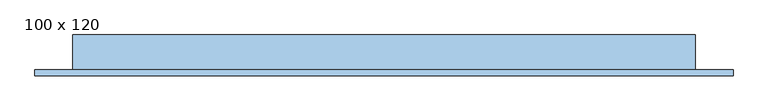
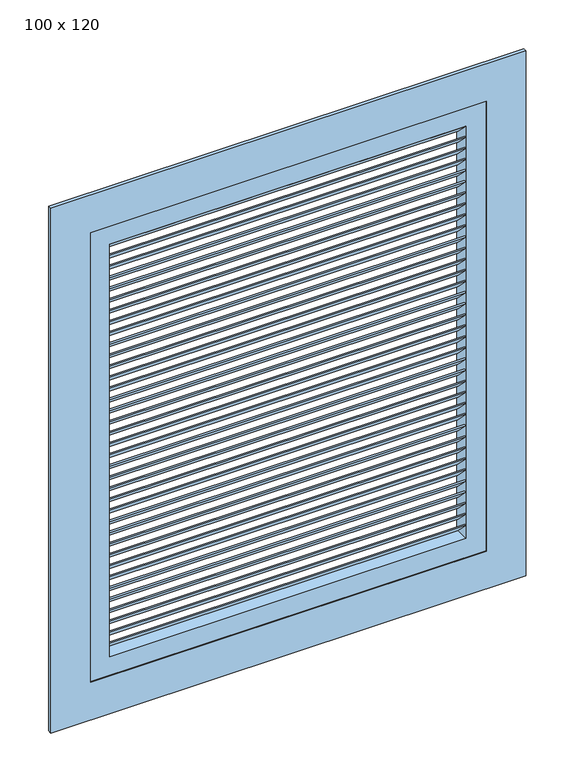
"""IFC4 building model written with IfcOpenShell, lengths in millimetres: window geometry, VENEZIANA DE ABRIR PARA FORA - 1 FOLHA : 100 x 120."""

from ifc_helpers import new_model, si_unit, frame, origin, place, context, project, spatial, polyline, outline, extrude, source, transform, mapped, element, save


def window_100_x_120_e8788bc4(model_context):
    return source(origin(), model_context, "Body", "SweptSolid", [
        extrude(outline(polyline([(-48.3758395, 2085.4166667), (-83.3758395, 2120.4166667), (-78.3758395, 2120.4166667), (-43.3758395, 2085.4166667), (-48.3758395, 2085.4166667)])), frame((-320.5964491, 0.0, 0.0), z_axis=(1.0, 0.0, 0.0), x_axis=(0.0, 1.0, 0.0)), (0.0, 0.0, 1.0), 900.0),
        extrude(outline(polyline([(-48.3758395, 2055.8333333), (-83.3758395, 2090.8333333), (-78.3758395, 2090.8333333), (-43.3758395, 2055.8333333), (-48.3758395, 2055.8333333)])), frame((-320.5964491, 0.0, 0.0), z_axis=(1.0, 0.0, 0.0), x_axis=(0.0, 1.0, 0.0)), (0.0, 0.0, 1.0), 900.0),
        extrude(outline(polyline([(-48.3758395, 2026.25), (-83.3758395, 2061.25), (-78.3758395, 2061.25), (-43.3758395, 2026.25), (-48.3758395, 2026.25)])), frame((-320.5964491, 0.0, 0.0), z_axis=(1.0, 0.0, 0.0), x_axis=(0.0, 1.0, 0.0)), (0.0, 0.0, 1.0), 900.0),
        extrude(outline(polyline([(-48.3758395, 1996.6666667), (-83.3758395, 2031.6666667), (-78.3758395, 2031.6666667), (-43.3758395, 1996.6666667), (-48.3758395, 1996.6666667)])), frame((-320.5964491, 0.0, 0.0), z_axis=(1.0, 0.0, 0.0), x_axis=(0.0, 1.0, 0.0)), (0.0, 0.0, 1.0), 900.0),
        extrude(outline(polyline([(-48.3758395, 1967.0833333), (-83.3758395, 2002.0833333), (-78.3758395, 2002.0833333), (-43.3758395, 1967.0833333), (-48.3758395, 1967.0833333)])), frame((-320.5964491, 0.0, 0.0), z_axis=(1.0, 0.0, 0.0), x_axis=(0.0, 1.0, 0.0)), (0.0, 0.0, 1.0), 900.0),
        extrude(outline(polyline([(-48.3758395, 1937.5), (-83.3758395, 1972.5), (-78.3758395, 1972.5), (-43.3758395, 1937.5), (-48.3758395, 1937.5)])), frame((-320.5964491, 0.0, 0.0), z_axis=(1.0, 0.0, 0.0), x_axis=(0.0, 1.0, 0.0)), (0.0, 0.0, 1.0), 900.0),
        extrude(outline(polyline([(-48.3758395, 1907.9166667), (-83.3758395, 1942.9166667), (-78.3758395, 1942.9166667), (-43.3758395, 1907.9166667), (-48.3758395, 1907.9166667)])), frame((-320.5964491, 0.0, 0.0), z_axis=(1.0, 0.0, 0.0), x_axis=(0.0, 1.0, 0.0)), (0.0, 0.0, 1.0), 900.0),
        extrude(outline(polyline([(-48.3758395, 1878.3333333), (-83.3758395, 1913.3333333), (-78.3758395, 1913.3333333), (-43.3758395, 1878.3333333), (-48.3758395, 1878.3333333)])), frame((-320.5964491, 0.0, 0.0), z_axis=(1.0, 0.0, 0.0), x_axis=(0.0, 1.0, 0.0)), (0.0, 0.0, 1.0), 900.0),
        extrude(outline(polyline([(-48.3758395, 1848.75), (-83.3758395, 1883.75), (-78.3758395, 1883.75), (-43.3758395, 1848.75), (-48.3758395, 1848.75)])), frame((-320.5964491, 0.0, 0.0), z_axis=(1.0, 0.0, 0.0), x_axis=(0.0, 1.0, 0.0)), (0.0, 0.0, 1.0), 900.0),
        extrude(outline(polyline([(-48.3758395, 1819.1666667), (-83.3758395, 1854.1666667), (-78.3758395, 1854.1666667), (-43.3758395, 1819.1666667), (-48.3758395, 1819.1666667)])), frame((-320.5964491, 0.0, 0.0), z_axis=(1.0, 0.0, 0.0), x_axis=(0.0, 1.0, 0.0)), (0.0, 0.0, 1.0), 900.0),
        extrude(outline(polyline([(-48.3758395, 1789.5833333), (-83.3758395, 1824.5833333), (-78.3758395, 1824.5833333), (-43.3758395, 1789.5833333), (-48.3758395, 1789.5833333)])), frame((-320.5964491, 0.0, 0.0), z_axis=(1.0, 0.0, 0.0), x_axis=(0.0, 1.0, 0.0)), (0.0, 0.0, 1.0), 900.0),
        extrude(outline(polyline([(-48.3758395, 1760.0), (-83.3758395, 1795.0), (-78.3758395, 1795.0), (-43.3758395, 1760.0), (-48.3758395, 1760.0)])), frame((-320.5964491, 0.0, 0.0), z_axis=(1.0, 0.0, 0.0), x_axis=(0.0, 1.0, 0.0)), (0.0, 0.0, 1.0), 900.0),
        extrude(outline(polyline([(-48.3758395, 1730.4166667), (-83.3758395, 1765.4166667), (-78.3758395, 1765.4166667), (-43.3758395, 1730.4166667), (-48.3758395, 1730.4166667)])), frame((-320.5964491, 0.0, 0.0), z_axis=(1.0, 0.0, 0.0), x_axis=(0.0, 1.0, 0.0)), (0.0, 0.0, 1.0), 900.0),
        extrude(outline(polyline([(-48.3758395, 1700.8333333), (-83.3758395, 1735.8333333), (-78.3758395, 1735.8333333), (-43.3758395, 1700.8333333), (-48.3758395, 1700.8333333)])), frame((-320.5964491, 0.0, 0.0), z_axis=(1.0, 0.0, 0.0), x_axis=(0.0, 1.0, 0.0)), (0.0, 0.0, 1.0), 900.0),
        extrude(outline(polyline([(-48.3758395, 1671.25), (-83.3758395, 1706.25), (-78.3758395, 1706.25), (-43.3758395, 1671.25), (-48.3758395, 1671.25)])), frame((-320.5964491, 0.0, 0.0), z_axis=(1.0, 0.0, 0.0), x_axis=(0.0, 1.0, 0.0)), (0.0, 0.0, 1.0), 900.0),
        extrude(outline(polyline([(-48.3758395, 1641.6666667), (-83.3758395, 1676.6666667), (-78.3758395, 1676.6666667), (-43.3758395, 1641.6666667), (-48.3758395, 1641.6666667)])), frame((-320.5964491, 0.0, 0.0), z_axis=(1.0, 0.0, 0.0), x_axis=(0.0, 1.0, 0.0)), (0.0, 0.0, 1.0), 900.0),
        extrude(outline(polyline([(-48.3758395, 1612.0833333), (-83.3758395, 1647.0833333), (-78.3758395, 1647.0833333), (-43.3758395, 1612.0833333), (-48.3758395, 1612.0833333)])), frame((-320.5964491, 0.0, 0.0), z_axis=(1.0, 0.0, 0.0), x_axis=(0.0, 1.0, 0.0)), (0.0, 0.0, 1.0), 900.0),
        extrude(outline(polyline([(-48.3758395, 1582.5), (-83.3758395, 1617.5), (-78.3758395, 1617.5), (-43.3758395, 1582.5), (-48.3758395, 1582.5)])), frame((-320.5964491, 0.0, 0.0), z_axis=(1.0, 0.0, 0.0), x_axis=(0.0, 1.0, 0.0)), (0.0, 0.0, 1.0), 900.0),
        extrude(outline(polyline([(-48.3758395, 1552.9166667), (-83.3758395, 1587.9166667), (-78.3758395, 1587.9166667), (-43.3758395, 1552.9166667), (-48.3758395, 1552.9166667)])), frame((-320.5964491, 0.0, 0.0), z_axis=(1.0, 0.0, 0.0), x_axis=(0.0, 1.0, 0.0)), (0.0, 0.0, 1.0), 900.0),
        extrude(outline(polyline([(-48.3758395, 1523.3333333), (-83.3758395, 1558.3333333), (-78.3758395, 1558.3333333), (-43.3758395, 1523.3333333), (-48.3758395, 1523.3333333)])), frame((-320.5964491, 0.0, 0.0), z_axis=(1.0, 0.0, 0.0), x_axis=(0.0, 1.0, 0.0)), (0.0, 0.0, 1.0), 900.0),
        extrude(outline(polyline([(-48.3758395, 1493.75), (-83.3758395, 1528.75), (-78.3758395, 1528.75), (-43.3758395, 1493.75), (-48.3758395, 1493.75)])), frame((-320.5964491, 0.0, 0.0), z_axis=(1.0, 0.0, 0.0), x_axis=(0.0, 1.0, 0.0)), (0.0, 0.0, 1.0), 900.0),
        extrude(outline(polyline([(-48.3758395, 1464.1666667), (-83.3758395, 1499.1666667), (-78.3758395, 1499.1666667), (-43.3758395, 1464.1666667), (-48.3758395, 1464.1666667)])), frame((-320.5964491, 0.0, 0.0), z_axis=(1.0, 0.0, 0.0), x_axis=(0.0, 1.0, 0.0)), (0.0, 0.0, 1.0), 900.0),
        extrude(outline(polyline([(-48.3758395, 1434.5833333), (-83.3758395, 1469.5833333), (-78.3758395, 1469.5833333), (-43.3758395, 1434.5833333), (-48.3758395, 1434.5833333)])), frame((-320.5964491, 0.0, 0.0), z_axis=(1.0, 0.0, 0.0), x_axis=(0.0, 1.0, 0.0)), (0.0, 0.0, 1.0), 900.0),
        extrude(outline(polyline([(-48.3758395, 1405.0), (-83.3758395, 1440.0), (-78.3758395, 1440.0), (-43.3758395, 1405.0), (-48.3758395, 1405.0)])), frame((-320.5964491, 0.0, 0.0), z_axis=(1.0, 0.0, 0.0), x_axis=(0.0, 1.0, 0.0)), (0.0, 0.0, 1.0), 900.0),
        extrude(outline(polyline([(-48.3758395, 1375.4166667), (-83.3758395, 1410.4166667), (-78.3758395, 1410.4166667), (-43.3758395, 1375.4166667), (-48.3758395, 1375.4166667)])), frame((-320.5964491, 0.0, 0.0), z_axis=(1.0, 0.0, 0.0), x_axis=(0.0, 1.0, 0.0)), (0.0, 0.0, 1.0), 900.0),
        extrude(outline(polyline([(-48.3758395, 1345.8333333), (-83.3758395, 1380.8333333), (-78.3758395, 1380.8333333), (-43.3758395, 1345.8333333), (-48.3758395, 1345.8333333)])), frame((-320.5964491, 0.0, 0.0), z_axis=(1.0, 0.0, 0.0), x_axis=(0.0, 1.0, 0.0)), (0.0, 0.0, 1.0), 900.0),
        extrude(outline(polyline([(-48.3758395, 1316.25), (-83.3758395, 1351.25), (-78.3758395, 1351.25), (-43.3758395, 1316.25), (-48.3758395, 1316.25)])), frame((-320.5964491, 0.0, 0.0), z_axis=(1.0, 0.0, 0.0), x_axis=(0.0, 1.0, 0.0)), (0.0, 0.0, 1.0), 900.0),
        extrude(outline(polyline([(-48.3758395, 1286.6666667), (-83.3758395, 1321.6666667), (-78.3758395, 1321.6666667), (-43.3758395, 1286.6666667), (-48.3758395, 1286.6666667)])), frame((-320.5964491, 0.0, 0.0), z_axis=(1.0, 0.0, 0.0), x_axis=(0.0, 1.0, 0.0)), (0.0, 0.0, 1.0), 900.0),
        extrude(outline(polyline([(-48.3758395, 1257.0833333), (-83.3758395, 1292.0833333), (-78.3758395, 1292.0833333), (-43.3758395, 1257.0833333), (-48.3758395, 1257.0833333)])), frame((-320.5964491, 0.0, 0.0), z_axis=(1.0, 0.0, 0.0), x_axis=(0.0, 1.0, 0.0)), (0.0, 0.0, 1.0), 900.0),
        extrude(outline(polyline([(-48.3758395, 1227.5), (-83.3758395, 1262.5), (-78.3758395, 1262.5), (-43.3758395, 1227.5), (-48.3758395, 1227.5)])), frame((-320.5964491, 0.0, 0.0), z_axis=(1.0, 0.0, 0.0), x_axis=(0.0, 1.0, 0.0)), (0.0, 0.0, 1.0), 900.0),
        extrude(outline(polyline([(-48.3758395, 1197.9166667), (-83.3758395, 1232.9166667), (-78.3758395, 1232.9166667), (-43.3758395, 1197.9166667), (-48.3758395, 1197.9166667)])), frame((-320.5964491, 0.0, 0.0), z_axis=(1.0, 0.0, 0.0), x_axis=(0.0, 1.0, 0.0)), (0.0, 0.0, 1.0), 900.0),
        extrude(outline(polyline([(-48.3758395, 1168.3333333), (-83.3758395, 1203.3333333), (-78.3758395, 1203.3333333), (-43.3758395, 1168.3333333), (-48.3758395, 1168.3333333)])), frame((-320.5964491, 0.0, 0.0), z_axis=(1.0, 0.0, 0.0), x_axis=(0.0, 1.0, 0.0)), (0.0, 0.0, 1.0), 900.0),
        extrude(outline(polyline([(-48.3758395, 1138.75), (-83.3758395, 1173.75), (-78.3758395, 1173.75), (-43.3758395, 1138.75), (-48.3758395, 1138.75)])), frame((-320.5964491, 0.0, 0.0), z_axis=(1.0, 0.0, 0.0), x_axis=(0.0, 1.0, 0.0)), (0.0, 0.0, 1.0), 900.0),
        extrude(outline(polyline([(-48.3758395, 1109.1666667), (-83.3758395, 1144.1666667), (-78.3758395, 1144.1666667), (-43.3758395, 1109.1666667), (-48.3758395, 1109.1666667)])), frame((-320.5964491, 0.0, 0.0), z_axis=(1.0, 0.0, 0.0), x_axis=(0.0, 1.0, 0.0)), (0.0, 0.0, 1.0), 900.0),
        extrude(outline(polyline([(-48.3758395, 1079.5833333), (-83.3758395, 1114.5833333), (-78.3758395, 1114.5833333), (-43.3758395, 1079.5833333), (-48.3758395, 1079.5833333)])), frame((-320.5964491, 0.0, 0.0), z_axis=(1.0, 0.0, 0.0), x_axis=(0.0, 1.0, 0.0)), (0.0, 0.0, 1.0), 900.0),
        extrude(outline(polyline([(-48.3758395, 2115.0), (-83.3758395, 2150.0), (-78.3758395, 2150.0), (-43.3758395, 2115.0), (-48.3758395, 2115.0)])), frame((-320.5964491, 0.0, 0.0), z_axis=(1.0, 0.0, 0.0), x_axis=(0.0, 1.0, 0.0)), (0.0, 0.0, 1.0), 900.0),
        extrude(outline(polyline([(-48.3758395, 1050.0), (-83.3758395, 1085.0), (-78.3758395, 1085.0), (-43.3758395, 1050.0), (-48.3758395, 1050.0)])), frame((-320.5964491, 0.0, 0.0), z_axis=(1.0, 0.0, 0.0), x_axis=(0.0, 1.0, 0.0)), (0.0, 0.0, 1.0), 900.0),
        extrude(outline(polyline([(2200.0, 629.4035509), (2200.0, -370.5964491), (1000.0, -370.5964491), (1000.0, 629.4035509), (2200.0, 629.4035509)]), holes=[polyline([(2150.0, 579.4035509), (1050.0, 579.4035509), (1050.0, -320.5964491), (2150.0, -320.5964491), (2150.0, 579.4035509)])]), frame((0.0, -83.3758395, 0.0), z_axis=(0.0, 1.0, 0.0), x_axis=(0.0, 0.0, 1.0)), (0.0, 0.0, 1.0), 40.0),
        extrude(outline(polyline([(900.0, -470.5964491), (900.0, 729.4035509), (2300.0, 729.4035509), (2300.0, -470.5964491), (900.0, -470.5964491)]), holes=[polyline([(2200.0, -370.5964491), (2200.0, 629.4035509), (1000.0, 629.4035509), (1000.0, -370.5964491), (2200.0, -370.5964491)])]), frame((0.0, -85.8758395, 0.0), z_axis=(0.0, 1.0, 0.0), x_axis=(0.0, 0.0, 1.0)), (0.0, 0.0, 1.0), 10.0),
        extrude(outline(polyline([(-405.5964491, -15.8758395), (-370.5964491, -15.8758395), (-370.5964491, -75.8758395), (-405.5964491, -75.8758395), (-405.5964491, -15.8758395)])), frame((0.0, 0.0, 1000.0), z_axis=(0.0, 0.0, 1.0), x_axis=(1.0, 0.0, 0.0)), (0.0, 0.0, 1.0), 1200.0),
        extrude(outline(polyline([(629.4035509, -15.8758395), (664.4035509, -15.8758395), (664.4035509, -75.8758395), (629.4035509, -75.8758395), (629.4035509, -15.8758395)])), frame((0.0, 0.0, 1000.0), z_axis=(0.0, 0.0, 1.0), x_axis=(1.0, 0.0, 0.0)), (0.0, 0.0, 1.0), 1200.0),
        extrude(outline(polyline([(-405.5964491, -15.8758395), (664.4035509, -15.8758395), (664.4035509, -75.8758395), (-405.5964491, -75.8758395), (-405.5964491, -15.8758395)])), frame((0.0, 0.0, 965.0), z_axis=(0.0, 0.0, 1.0), x_axis=(1.0, 0.0, 0.0)), (0.0, 0.0, 1.0), 35.0),
        extrude(outline(polyline([(-405.5964491, -15.8758395), (664.4035509, -15.8758395), (664.4035509, -75.8758395), (-405.5964491, -75.8758395), (-405.5964491, -15.8758395)])), frame((0.0, 0.0, 2200.0), z_axis=(0.0, 0.0, 1.0), x_axis=(1.0, 0.0, 0.0)), (0.0, 0.0, 1.0), 35.0),
    ])


if __name__ == "__main__":
    model = new_model("IFC4")
    model_context = context("Model", 3, world=origin())
    ifc_project = project(units=[si_unit("LENGTHUNIT", "METRE", prefix="MILLI")], contexts=[model_context])
    site = spatial("IfcSite", under=ifc_project)
    building = spatial("IfcBuilding", under=site)
    placement = place(None, origin())
    window_100_x_120_shape = window_100_x_120_e8788bc4(model_context)
    element("IfcWindow", 1, ObjectType="VENEZIANA DE ABRIR PARA FORA - 1 FOLHA : 100 x 120", at=placement, inside=building, context=model_context, shape_type="MappedRepresentation", body=[
        mapped(window_100_x_120_shape, transform((0.0, 0.0, 0.0), x_axis=(1.0, 0.0, 0.0), y_axis=(0.0, 1.0, 0.0), z_axis=(0.0, 0.0, 1.0))),
    ])
    save(model, "model.ifc")
